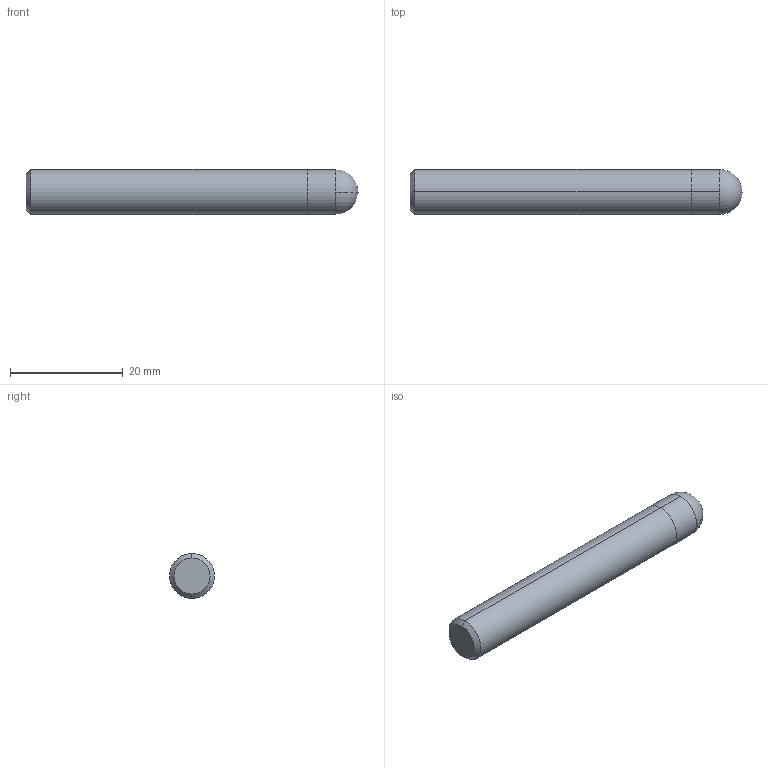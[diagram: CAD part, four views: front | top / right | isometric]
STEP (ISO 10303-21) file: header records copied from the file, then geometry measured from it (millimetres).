
FILE_DESCRIPTION (( 'STEP AP214' ), '1' );
FILE_NAME ('G9624080.STEP', '2018-07-02T08:23:27', ( 'USER' ), ( '' ), 'SwSTEP 2.0', 'SolidWorks 2014', '' );
FILE_SCHEMA (( 'AUTOMOTIVE_DESIGN' ));
Length unit declared in the file: millimetre
Products named in the file (1): G9624080
Bounding box: 59 x 8 x 8 mm (x, y, z)
Volume: 2891.1 mm3; surface area: 1621 mm2
Topology: 2 solids, 2 shells, 11 faces, 22 edges, 13 vertices
Faces by surface type: cylinder 4, plane 3, cone 2, sphere 2
Entity records: 378 total; most frequent: DIRECTION 58, CARTESIAN_POINT 45, ORIENTED_EDGE 40, AXIS2_PLACEMENT_3D 26, EDGE_CURVE 20, CIRCLE 14, VERTEX_POINT 13, ADVANCED_FACE 11
